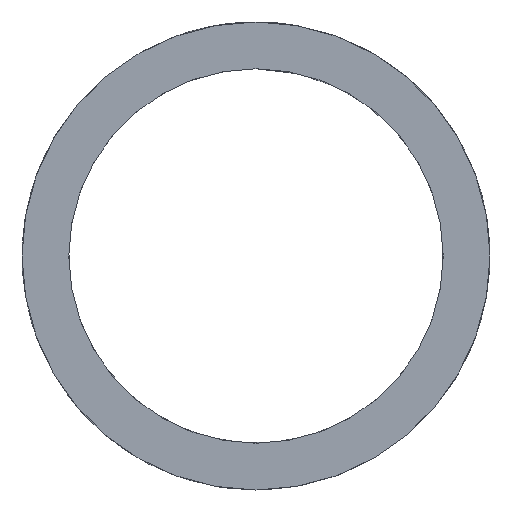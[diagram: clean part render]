
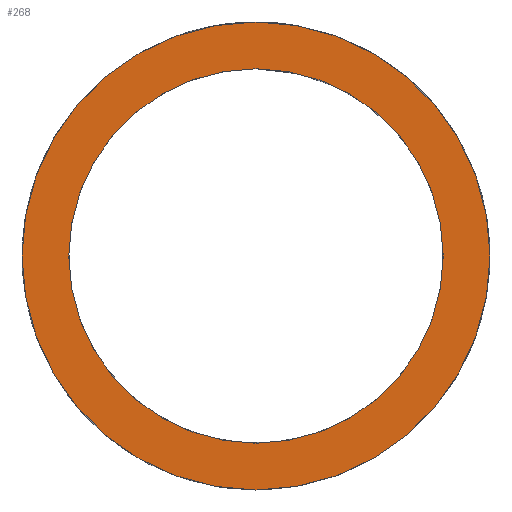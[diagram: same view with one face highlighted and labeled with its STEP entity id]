
A CAD part, left-side view. The second image highlights one B-rep face of the part: STEP entity #268.
In plain terms, the highlighted planar face has unit normal (-1, 0, 0).
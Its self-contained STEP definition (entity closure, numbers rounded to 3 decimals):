
#112=ORIENTED_EDGE('',*,*,#138,.T.);
#113=ORIENTED_EDGE('',*,*,#139,.T.);
#128=CIRCLE('',#257,15.);
#129=CIRCLE('',#258,12.);
#130=VERTEX_POINT('',#199);
#131=VERTEX_POINT('',#201);
#138=EDGE_CURVE('',#130,#130,#128,.T.);
#139=EDGE_CURVE('',#131,#131,#129,.T.);
#146=EDGE_LOOP('',(#112));
#147=EDGE_LOOP('',(#113));
#162=FACE_BOUND('',#146,.T.);
#163=FACE_BOUND('',#147,.T.);
#178=DIRECTION('',(-1.,0.,0.));
#179=DIRECTION('',(0.,1.,0.));
#180=DIRECTION('',(-1.,0.,0.));
#181=DIRECTION('',(0.,0.,15.));
#182=DIRECTION('',(1.,0.,0.));
#183=DIRECTION('',(0.,0.,12.));
#198=CARTESIAN_POINT('',(0.,0.,15.));
#199=CARTESIAN_POINT('',(0.,0.,15.));
#200=CARTESIAN_POINT('',(0.,0.,0.));
#201=CARTESIAN_POINT('',(0.,0.,12.));
#202=CARTESIAN_POINT('',(0.,0.,0.));
#256=AXIS2_PLACEMENT_3D('',#198,#178,#179);
#257=AXIS2_PLACEMENT_3D('',#200,#180,#181);
#258=AXIS2_PLACEMENT_3D('',#202,#182,#183);
#266=PLANE('',#256);
#268=ADVANCED_FACE('',(#162,#163),#266,.T.);
